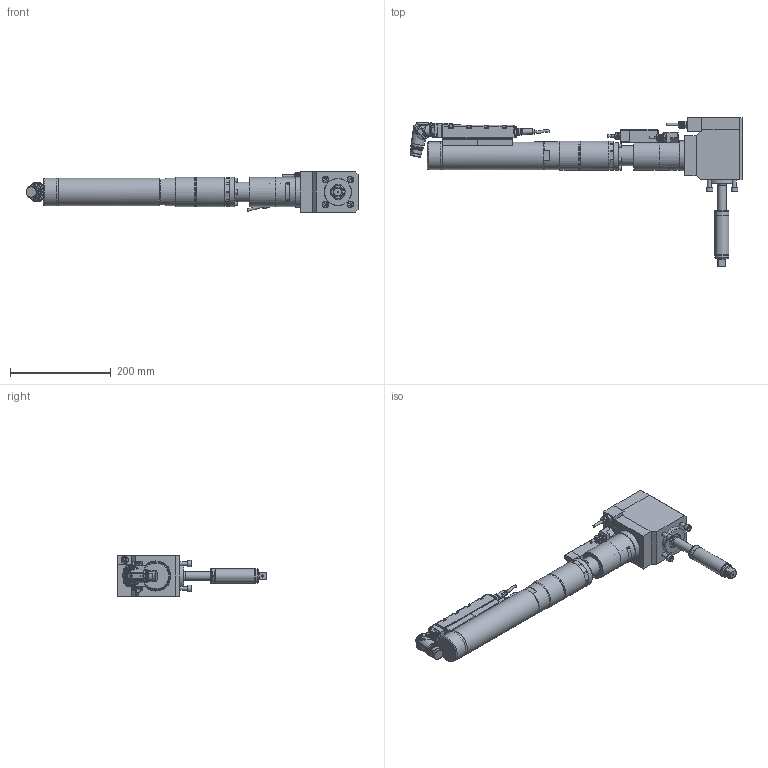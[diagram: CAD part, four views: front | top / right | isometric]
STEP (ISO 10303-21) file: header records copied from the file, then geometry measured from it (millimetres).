
FILE_DESCRIPTION (( 'STEP AP214' ), '1' );
FILE_NAME ('70082544_ESX227DRX270WX2AWDX250-270.STEP', '2016-11-15T13:05:38', ( 'admin' ), ( '' ), 'SwSTEP 2.0', 'SolidWorks 2014', '' );
FILE_SCHEMA (( 'AUTOMOTIVE_DESIGN' ));
Length unit declared in the file: millimetre
Products named in the file (12): 70082307; 70082544_ESX227DRX270WX2AWDX250-270; 7004768_3; 70082403; 70082361; 70082323; 70082307_ESX227_Standard_Winkel_2; 70082293_2; 70057493_Standard_winkel; 70057493_4; 70057493_3; 70057493_2
Assembly tree (12 placements, depth 4):
  70082544_ESX227DRX270WX2AWDX250-270
    70082307_ESX227_Standard_Winkel_2
      70082307
      70057493_Standard_winkel
        70057493_2
        70057493_3
        70057493_4
      70082293_2  x2
    70082323
    70082361
    70082403
    7004768_3
Bounding box: 660.56 x 296.1 x 80 mm (x, y, z)
Volume: 2753672.8 mm3; surface area: 293617.3 mm2
Topology: 14 solids, 38 shells, 3280 faces, 8442 edges, 5466 vertices
Faces by surface type: plane 1636, cylinder 899, cone 388, bspline 271, torus 79, sphere 7
Full cylindrical faces by diameter (mm): 0.5 x14, 0.57 x14, 1.6 x1, 2 x3, 3 x4, 4.2 x11, 4.5 x1, 4.9 x7, 5 x45, 5.5 x17, 6 x2, 8 x4, 8.459 x2, 8.5 x5, 9 x7, 11.08 x3, 12 x1, 12.3 x3, 13 x4, 14 x6, 14.5 x2, 16.84 x1, 17.3 x1, 17.4 x1, 17.5 x2, 20 x2, 21.15 x1, 21.5 x1, 21.7 x1, 22 x1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
Entity records: 108124 total; most frequent: CARTESIAN_POINT 34282, ORIENTED_EDGE 15166, DIRECTION 13577, EDGE_CURVE 7583, VERTEX_POINT 5115, AXIS2_PLACEMENT_3D 5035, EDGE_LOOP 3784, LINE 3507
